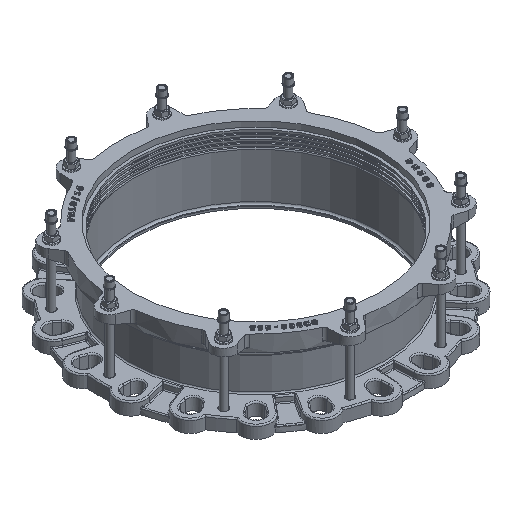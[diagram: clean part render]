
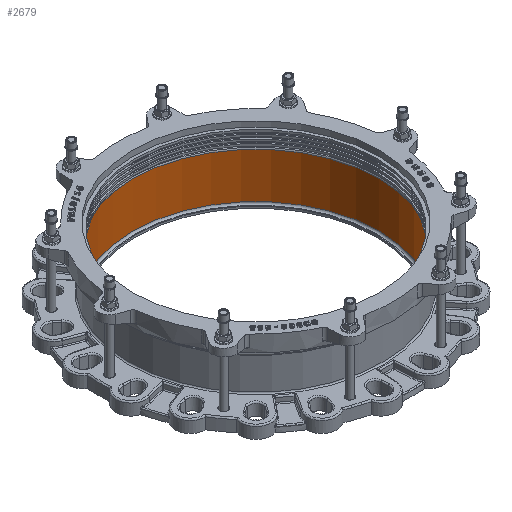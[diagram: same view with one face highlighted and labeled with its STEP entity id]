
A CAD part, isometric view. The second image highlights one B-rep face of the part: STEP entity #2679.
In plain terms, the highlighted cylindrical face has radius 266.5 mm (diameter 533 mm), a full revolution.
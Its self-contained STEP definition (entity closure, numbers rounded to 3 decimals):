
#2679=ADVANCED_FACE('',(#19756,#19758),#19760,.F.);
#19756=FACE_OUTER_BOUND('',#19757,.T.);
#19757=EDGE_LOOP('',(#28514));
#19758=FACE_OUTER_BOUND('',#19759,.T.);
#19759=EDGE_LOOP('',(#28515));
#19760=CYLINDRICAL_SURFACE('',#19761,266.5);
#19761=AXIS2_PLACEMENT_3D('',#19762,#19763,#19764);
#19762=CARTESIAN_POINT('',(0.,0.,4.));
#19763=DIRECTION('',(0.,0.,1.));
#19764=DIRECTION('',(-1.,0.,0.));
#28514=ORIENTED_EDGE('',*,*,#35410,.F.);
#28515=ORIENTED_EDGE('',*,*,#35409,.T.);
#35409=EDGE_CURVE('',#40378,#40378,#40379,.F.);
#35410=EDGE_CURVE('',#40380,#40380,#40381,.T.);
#40378=VERTEX_POINT('',#58635);
#40379=CIRCLE('',#58636,266.5);
#40380=VERTEX_POINT('',#58640);
#40381=CIRCLE('',#58641,266.5);
#58635=CARTESIAN_POINT('',(0.,266.5,8.));
#58636=AXIS2_PLACEMENT_3D('',#58637,#58638,#58639);
#58637=CARTESIAN_POINT('',(0.,0.,8.));
#58638=DIRECTION('',(0.,0.,1.));
#58639=DIRECTION('',(0.,1.,0.));
#58640=CARTESIAN_POINT('',(0.,266.5,106.));
#58641=AXIS2_PLACEMENT_3D('',#58642,#58643,#58644);
#58642=CARTESIAN_POINT('',(0.,0.,106.));
#58643=DIRECTION('',(0.,0.,-1.));
#58644=DIRECTION('',(0.,1.,0.));
